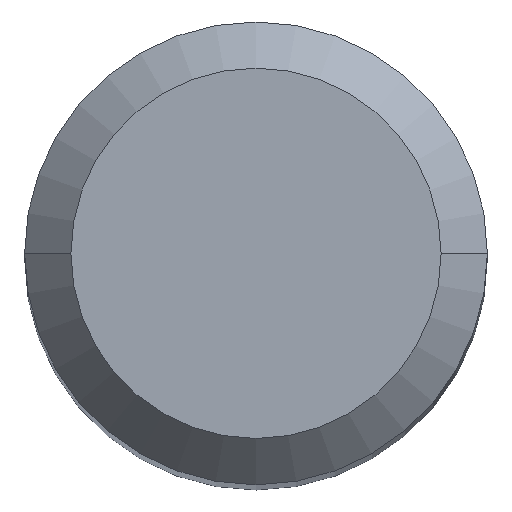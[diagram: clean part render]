
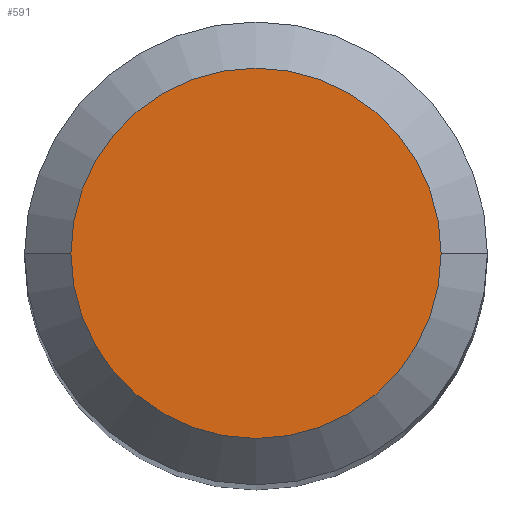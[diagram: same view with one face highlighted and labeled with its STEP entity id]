
A CAD part, top view. The second image highlights one B-rep face of the part: STEP entity #591.
In plain terms, the highlighted planar face has unit normal (0, 0, 1).
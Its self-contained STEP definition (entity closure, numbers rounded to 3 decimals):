
#2 = CARTESIAN_POINT ( 'NONE',  ( 0., 2.4, 0. ) ) ;
#67 = AXIS2_PLACEMENT_3D ( 'NONE', #2, #618, #405 ) ;
#113 = PLANE ( 'NONE',  #67 ) ;
#116 = ORIENTED_EDGE ( 'NONE', *, *, #523, .F. ) ;
#121 = AXIS2_PLACEMENT_3D ( 'NONE', #438, #255, #148 ) ;
#136 = CARTESIAN_POINT ( 'NONE',  ( -2.4, 0., 0. ) ) ;
#141 = AXIS2_PLACEMENT_3D ( 'NONE', #351, #577, #439 ) ;
#148 = DIRECTION ( 'NONE',  ( -1., 0., 0. ) ) ;
#154 = EDGE_CURVE ( 'NONE', #360, #505, #550, .T. ) ;
#167 = CARTESIAN_POINT ( 'NONE',  ( 2.4, 0., 0. ) ) ;
#168 = EDGE_LOOP ( 'NONE', ( #116, #554 ) ) ;
#255 = DIRECTION ( 'NONE',  ( 0., 0., -1. ) ) ;
#351 = CARTESIAN_POINT ( 'NONE',  ( 0., 0., 0. ) ) ;
#360 = VERTEX_POINT ( 'NONE', #167 ) ;
#395 = CIRCLE ( 'NONE', #141, 2.4 ) ;
#405 = DIRECTION ( 'NONE',  ( 1., 0., 0. ) ) ;
#438 = CARTESIAN_POINT ( 'NONE',  ( 0., 0., 0. ) ) ;
#439 = DIRECTION ( 'NONE',  ( -1., 0., 0. ) ) ;
#499 = FACE_OUTER_BOUND ( 'NONE', #168, .T. ) ;
#505 = VERTEX_POINT ( 'NONE', #136 ) ;
#523 = EDGE_CURVE ( 'NONE', #505, #360, #395, .T. ) ;
#550 = CIRCLE ( 'NONE', #121, 2.4 ) ;
#554 = ORIENTED_EDGE ( 'NONE', *, *, #154, .F. ) ;
#577 = DIRECTION ( 'NONE',  ( 0., 0., -1. ) ) ;
#591 = ADVANCED_FACE ( 'NONE', ( #499 ), #113, .T. ) ;
#618 = DIRECTION ( 'NONE',  ( 0., 0., 1. ) ) ;
